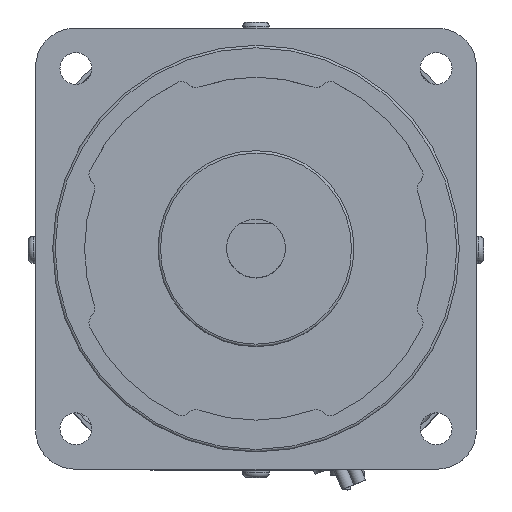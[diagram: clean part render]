
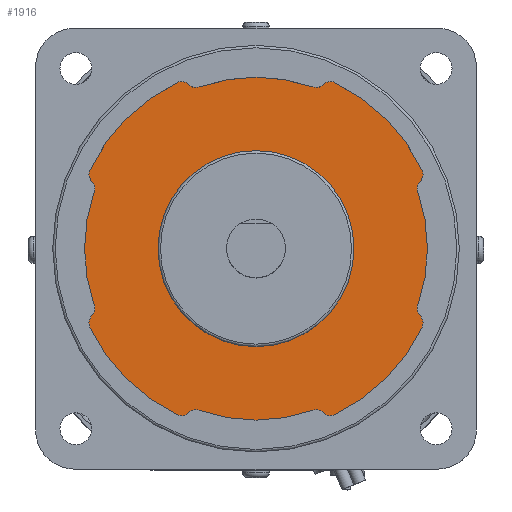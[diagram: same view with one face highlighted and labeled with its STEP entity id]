
A CAD part, top view. The second image highlights one B-rep face of the part: STEP entity #1916.
In plain terms, the highlighted planar face has unit normal (0, 0, 1).
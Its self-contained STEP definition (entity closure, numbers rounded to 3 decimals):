
#1675=CARTESIAN_POINT('',(20.0,0.,191.0));
#1676=VERTEX_POINT('',#1675);
#1677=CARTESIAN_POINT('',(0.,0.,191.0));
#1678=DIRECTION('',(0.0,0.0,-1.0));
#1679=DIRECTION('',(-1.0,0.0,0.0));
#1680=AXIS2_PLACEMENT_3D('',#1677,#1678,#1679);
#1681=CIRCLE('',#1680,20.0);
#1682=EDGE_CURVE('',#1676,#1676,#1681,.T.);
#1690=CARTESIAN_POINT('',(0.,0.,191.0));
#1691=DIRECTION('',(0.0,0.0,1.0));
#1692=DIRECTION('',(1.0,0.0,0.0));
#1693=AXIS2_PLACEMENT_3D('',#1690,#1691,#1692);
#1694=PLANE('',#1693);
#1695=CARTESIAN_POINT('',(-16.006,-33.913,191.0));
#1696=VERTEX_POINT('',#1695);
#1697=CARTESIAN_POINT('',(-13.722,-33.501,191.0));
#1698=VERTEX_POINT('',#1697);
#1699=CARTESIAN_POINT('',(-15.152,-32.104,191.0));
#1700=DIRECTION('',(0.0,0.0,1.0));
#1701=DIRECTION('',(0.427,0.904,0.0));
#1702=AXIS2_PLACEMENT_3D('',#1699,#1700,#1701);
#1703=CIRCLE('',#1702,2.);
#1704=EDGE_CURVE('',#1696,#1698,#1703,.T.);
#1705=ORIENTED_EDGE('',*,*,#1704,.T.);
#1706=CARTESIAN_POINT('',(-11.626,-33.013,191.0));
#1707=VERTEX_POINT('',#1706);
#1708=CARTESIAN_POINT('',(-12.291,-34.899,191.0));
#1709=DIRECTION('',(0.0,0.0,-1.0));
#1710=DIRECTION('',(-0.408,0.913,0.0));
#1711=AXIS2_PLACEMENT_3D('',#1708,#1709,#1710);
#1712=CIRCLE('',#1711,2.0);
#1713=EDGE_CURVE('',#1707,#1698,#1712,.F.);
#1714=ORIENTED_EDGE('',*,*,#1713,.F.);
#1715=CARTESIAN_POINT('',(11.626,-33.013,191.0));
#1716=VERTEX_POINT('',#1715);
#1717=CARTESIAN_POINT('',(0.,0.,191.));
#1718=DIRECTION('',(0.,0.,1.0));
#1719=DIRECTION('',(-0.383,-0.924,0.));
#1720=AXIS2_PLACEMENT_3D('',#1717,#1718,#1719);
#1721=CIRCLE('',#1720,35.0);
#1722=EDGE_CURVE('',#1707,#1716,#1721,.T.);
#1723=ORIENTED_EDGE('',*,*,#1722,.T.);
#1724=CARTESIAN_POINT('',(13.722,-33.501,191.0));
#1725=VERTEX_POINT('',#1724);
#1726=CARTESIAN_POINT('',(12.291,-34.899,191.0));
#1727=DIRECTION('',(0.0,0.0,-1.0));
#1728=DIRECTION('',(0.408,0.913,0.0));
#1729=AXIS2_PLACEMENT_3D('',#1726,#1727,#1728);
#1730=CIRCLE('',#1729,2.0);
#1731=EDGE_CURVE('',#1725,#1716,#1730,.F.);
#1732=ORIENTED_EDGE('',*,*,#1731,.F.);
#1733=CARTESIAN_POINT('',(16.006,-33.913,191.0));
#1734=VERTEX_POINT('',#1733);
#1735=CARTESIAN_POINT('',(15.152,-32.104,191.0));
#1736=DIRECTION('',(0.0,0.0,1.0));
#1737=DIRECTION('',(0.715,0.699,0.0));
#1738=AXIS2_PLACEMENT_3D('',#1735,#1736,#1737);
#1739=CIRCLE('',#1738,2.);
#1740=EDGE_CURVE('',#1725,#1734,#1739,.T.);
#1741=ORIENTED_EDGE('',*,*,#1740,.T.);
#1742=CARTESIAN_POINT('',(33.913,-16.006,191.0));
#1743=VERTEX_POINT('',#1742);
#1744=CARTESIAN_POINT('',(0.,0.,191.));
#1745=DIRECTION('',(0.,0.,1.0));
#1746=DIRECTION('',(0.383,-0.924,0.));
#1747=AXIS2_PLACEMENT_3D('',#1744,#1745,#1746);
#1748=CIRCLE('',#1747,37.5);
#1749=EDGE_CURVE('',#1734,#1743,#1748,.T.);
#1750=ORIENTED_EDGE('',*,*,#1749,.T.);
#1751=CARTESIAN_POINT('',(33.501,-13.722,191.0));
#1752=VERTEX_POINT('',#1751);
#1753=CARTESIAN_POINT('',(32.104,-15.152,191.0));
#1754=DIRECTION('',(0.0,0.0,1.0));
#1755=DIRECTION('',(-0.904,0.427,0.0));
#1756=AXIS2_PLACEMENT_3D('',#1753,#1754,#1755);
#1757=CIRCLE('',#1756,2.);
#1758=EDGE_CURVE('',#1743,#1752,#1757,.T.);
#1759=ORIENTED_EDGE('',*,*,#1758,.T.);
#1760=CARTESIAN_POINT('',(33.013,-11.626,191.0));
#1761=VERTEX_POINT('',#1760);
#1762=CARTESIAN_POINT('',(34.899,-12.291,191.0));
#1763=DIRECTION('',(0.0,0.0,-1.0));
#1764=DIRECTION('',(-0.913,-0.408,0.0));
#1765=AXIS2_PLACEMENT_3D('',#1762,#1763,#1764);
#1766=CIRCLE('',#1765,2.0);
#1767=EDGE_CURVE('',#1761,#1752,#1766,.F.);
#1768=ORIENTED_EDGE('',*,*,#1767,.F.);
#1769=CARTESIAN_POINT('',(33.013,11.626,191.0));
#1770=VERTEX_POINT('',#1769);
#1771=CARTESIAN_POINT('',(0.,0.,191.));
#1772=DIRECTION('',(0.,0.,1.0));
#1773=DIRECTION('',(0.924,-0.383,0.));
#1774=AXIS2_PLACEMENT_3D('',#1771,#1772,#1773);
#1775=CIRCLE('',#1774,35.);
#1776=EDGE_CURVE('',#1761,#1770,#1775,.T.);
#1777=ORIENTED_EDGE('',*,*,#1776,.T.);
#1778=CARTESIAN_POINT('',(33.501,13.722,191.0));
#1779=VERTEX_POINT('',#1778);
#1780=CARTESIAN_POINT('',(34.899,12.291,191.0));
#1781=DIRECTION('',(0.0,0.0,-1.0));
#1782=DIRECTION('',(-0.913,0.408,0.0));
#1783=AXIS2_PLACEMENT_3D('',#1780,#1781,#1782);
#1784=CIRCLE('',#1783,2.0);
#1785=EDGE_CURVE('',#1779,#1770,#1784,.F.);
#1786=ORIENTED_EDGE('',*,*,#1785,.F.);
#1787=CARTESIAN_POINT('',(33.913,16.006,191.0));
#1788=VERTEX_POINT('',#1787);
#1789=CARTESIAN_POINT('',(32.104,15.152,191.0));
#1790=DIRECTION('',(0.0,0.0,1.0));
#1791=DIRECTION('',(-0.699,0.715,0.0));
#1792=AXIS2_PLACEMENT_3D('',#1789,#1790,#1791);
#1793=CIRCLE('',#1792,2.);
#1794=EDGE_CURVE('',#1779,#1788,#1793,.T.);
#1795=ORIENTED_EDGE('',*,*,#1794,.T.);
#1796=CARTESIAN_POINT('',(16.006,33.913,191.0));
#1797=VERTEX_POINT('',#1796);
#1798=CARTESIAN_POINT('',(0.,0.,191.));
#1799=DIRECTION('',(0.,0.,1.0));
#1800=DIRECTION('',(0.924,0.383,0.));
#1801=AXIS2_PLACEMENT_3D('',#1798,#1799,#1800);
#1802=CIRCLE('',#1801,37.5);
#1803=EDGE_CURVE('',#1788,#1797,#1802,.T.);
#1804=ORIENTED_EDGE('',*,*,#1803,.T.);
#1805=CARTESIAN_POINT('',(13.722,33.501,191.0));
#1806=VERTEX_POINT('',#1805);
#1807=CARTESIAN_POINT('',(15.152,32.104,191.0));
#1808=DIRECTION('',(0.0,0.0,1.0));
#1809=DIRECTION('',(-0.427,-0.904,0.0));
#1810=AXIS2_PLACEMENT_3D('',#1807,#1808,#1809);
#1811=CIRCLE('',#1810,2.);
#1812=EDGE_CURVE('',#1797,#1806,#1811,.T.);
#1813=ORIENTED_EDGE('',*,*,#1812,.T.);
#1814=CARTESIAN_POINT('',(11.626,33.013,191.0));
#1815=VERTEX_POINT('',#1814);
#1816=CARTESIAN_POINT('',(12.291,34.899,191.0));
#1817=DIRECTION('',(0.0,0.0,-1.0));
#1818=DIRECTION('',(0.408,-0.913,0.0));
#1819=AXIS2_PLACEMENT_3D('',#1816,#1817,#1818);
#1820=CIRCLE('',#1819,2.0);
#1821=EDGE_CURVE('',#1815,#1806,#1820,.F.);
#1822=ORIENTED_EDGE('',*,*,#1821,.F.);
#1823=CARTESIAN_POINT('',(-11.626,33.013,191.0));
#1824=VERTEX_POINT('',#1823);
#1825=CARTESIAN_POINT('',(0.,0.,191.));
#1826=DIRECTION('',(0.,0.,1.0));
#1827=DIRECTION('',(0.383,0.924,0.));
#1828=AXIS2_PLACEMENT_3D('',#1825,#1826,#1827);
#1829=CIRCLE('',#1828,35.0);
#1830=EDGE_CURVE('',#1815,#1824,#1829,.T.);
#1831=ORIENTED_EDGE('',*,*,#1830,.T.);
#1832=CARTESIAN_POINT('',(-13.722,33.501,191.0));
#1833=VERTEX_POINT('',#1832);
#1834=CARTESIAN_POINT('',(-12.291,34.899,191.0));
#1835=DIRECTION('',(0.0,0.0,-1.0));
#1836=DIRECTION('',(-0.408,-0.913,0.0));
#1837=AXIS2_PLACEMENT_3D('',#1834,#1835,#1836);
#1838=CIRCLE('',#1837,2.0);
#1839=EDGE_CURVE('',#1833,#1824,#1838,.F.);
#1840=ORIENTED_EDGE('',*,*,#1839,.F.);
#1841=CARTESIAN_POINT('',(-16.006,33.913,191.0));
#1842=VERTEX_POINT('',#1841);
#1843=CARTESIAN_POINT('',(-15.152,32.104,191.0));
#1844=DIRECTION('',(0.0,0.0,1.0));
#1845=DIRECTION('',(-0.715,-0.699,0.0));
#1846=AXIS2_PLACEMENT_3D('',#1843,#1844,#1845);
#1847=CIRCLE('',#1846,2.);
#1848=EDGE_CURVE('',#1833,#1842,#1847,.T.);
#1849=ORIENTED_EDGE('',*,*,#1848,.T.);
#1850=CARTESIAN_POINT('',(-33.913,16.006,191.0));
#1851=VERTEX_POINT('',#1850);
#1852=CARTESIAN_POINT('',(0.,0.,191.));
#1853=DIRECTION('',(0.,0.,1.0));
#1854=DIRECTION('',(-0.383,0.924,0.));
#1855=AXIS2_PLACEMENT_3D('',#1852,#1853,#1854);
#1856=CIRCLE('',#1855,37.5);
#1857=EDGE_CURVE('',#1842,#1851,#1856,.T.);
#1858=ORIENTED_EDGE('',*,*,#1857,.T.);
#1859=CARTESIAN_POINT('',(-33.501,13.722,191.0));
#1860=VERTEX_POINT('',#1859);
#1861=CARTESIAN_POINT('',(-32.104,15.152,191.0));
#1862=DIRECTION('',(0.0,0.0,1.0));
#1863=DIRECTION('',(0.904,-0.427,0.0));
#1864=AXIS2_PLACEMENT_3D('',#1861,#1862,#1863);
#1865=CIRCLE('',#1864,2.);
#1866=EDGE_CURVE('',#1851,#1860,#1865,.T.);
#1867=ORIENTED_EDGE('',*,*,#1866,.T.);
#1868=CARTESIAN_POINT('',(-33.013,11.626,191.0));
#1869=VERTEX_POINT('',#1868);
#1870=CARTESIAN_POINT('',(-34.899,12.291,191.0));
#1871=DIRECTION('',(0.0,0.0,-1.0));
#1872=DIRECTION('',(0.913,0.408,0.0));
#1873=AXIS2_PLACEMENT_3D('',#1870,#1871,#1872);
#1874=CIRCLE('',#1873,2.0);
#1875=EDGE_CURVE('',#1869,#1860,#1874,.F.);
#1876=ORIENTED_EDGE('',*,*,#1875,.F.);
#1877=CARTESIAN_POINT('',(-33.013,-11.626,191.0));
#1878=VERTEX_POINT('',#1877);
#1879=CARTESIAN_POINT('',(0.,0.,191.));
#1880=DIRECTION('',(0.,0.,1.0));
#1881=DIRECTION('',(-0.924,0.383,0.));
#1882=AXIS2_PLACEMENT_3D('',#1879,#1880,#1881);
#1883=CIRCLE('',#1882,35.0);
#1884=EDGE_CURVE('',#1869,#1878,#1883,.T.);
#1885=ORIENTED_EDGE('',*,*,#1884,.T.);
#1886=CARTESIAN_POINT('',(-33.501,-13.722,191.0));
#1887=VERTEX_POINT('',#1886);
#1888=CARTESIAN_POINT('',(-34.899,-12.291,191.0));
#1889=DIRECTION('',(0.0,0.0,-1.0));
#1890=DIRECTION('',(0.913,-0.408,0.0));
#1891=AXIS2_PLACEMENT_3D('',#1888,#1889,#1890);
#1892=CIRCLE('',#1891,2.0);
#1893=EDGE_CURVE('',#1887,#1878,#1892,.F.);
#1894=ORIENTED_EDGE('',*,*,#1893,.F.);
#1895=CARTESIAN_POINT('',(-33.913,-16.006,191.0));
#1896=VERTEX_POINT('',#1895);
#1897=CARTESIAN_POINT('',(-32.104,-15.152,191.0));
#1898=DIRECTION('',(0.0,0.0,1.0));
#1899=DIRECTION('',(0.699,-0.715,0.0));
#1900=AXIS2_PLACEMENT_3D('',#1897,#1898,#1899);
#1901=CIRCLE('',#1900,2.);
#1902=EDGE_CURVE('',#1887,#1896,#1901,.T.);
#1903=ORIENTED_EDGE('',*,*,#1902,.T.);
#1904=CARTESIAN_POINT('',(0.,0.,191.));
#1905=DIRECTION('',(0.,0.,1.0));
#1906=DIRECTION('',(-0.924,-0.383,0.));
#1907=AXIS2_PLACEMENT_3D('',#1904,#1905,#1906);
#1908=CIRCLE('',#1907,37.5);
#1909=EDGE_CURVE('',#1896,#1696,#1908,.T.);
#1910=ORIENTED_EDGE('',*,*,#1909,.T.);
#1911=EDGE_LOOP('',(#1705,#1714,#1723,#1732,#1741,#1750,#1759,#1768,#1777,#1786,#1795,#1804,#1813,#1822,#1831,#1840,#1849,#1858,#1867,#1876,#1885,#1894,#1903,#1910));
#1912=FACE_OUTER_BOUND('',#1911,.T.);
#1913=ORIENTED_EDGE('',*,*,#1682,.T.);
#1914=EDGE_LOOP('',(#1913));
#1915=FACE_BOUND('',#1914,.T.);
#1916=ADVANCED_FACE('',(#1912,#1915),#1694,.T.);
